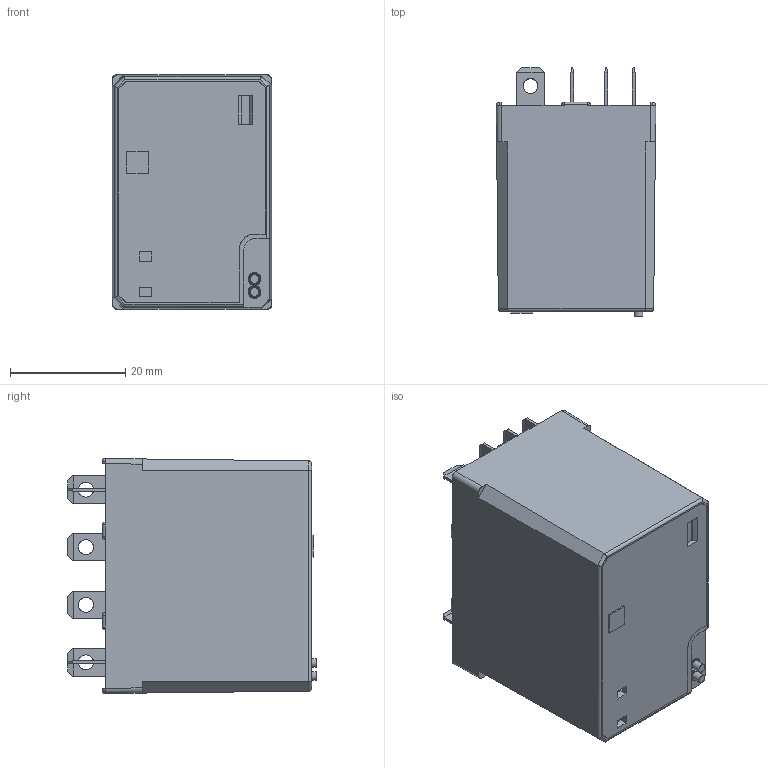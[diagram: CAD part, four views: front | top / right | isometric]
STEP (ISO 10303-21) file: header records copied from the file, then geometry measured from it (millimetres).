
FILE_DESCRIPTION(('STEP AP214'),'2;1');
FILE_NAME('5634_senza pulsante-nota tecnica T-catalogo.stp','2010-11-18T14:36:56',(''),(''),'2007.1.106','THINKDESIGN','');
FILE_SCHEMA(('AUTOMOTIVE_DESIGN'));
Length unit declared in the file: millimetre
Products named in the file (1): None
Bounding box: 27.7 x 43.1 x 40.79 mm (x, y, z)
Surface area: 12191.7 mm2 (no closed solid volume)
Topology: 0 solids, 0 shells, 371 faces, 2083 edges, 2028 vertices
Faces by surface type: plane 265, bspline 56, cylinder 50
Full cylindrical faces by diameter (mm): 1.5 x2, 2.6 x14, 5 x1
Entity records: 21996 total; most frequent: CARTESIAN_POINT 7597, DIRECTION 2337, COMPOSITE_CURVE_SEGMENT 2045, TRIMMED_CURVE 1600, VECTOR 1565, LINE 1565, AXIS2_PLACEMENT_3D 386, STYLED_ITEM 371
